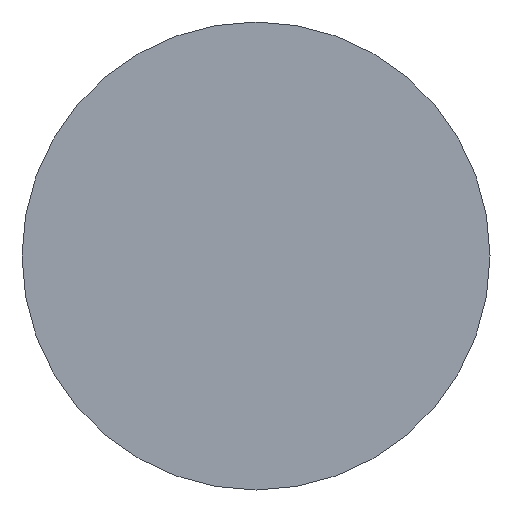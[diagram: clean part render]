
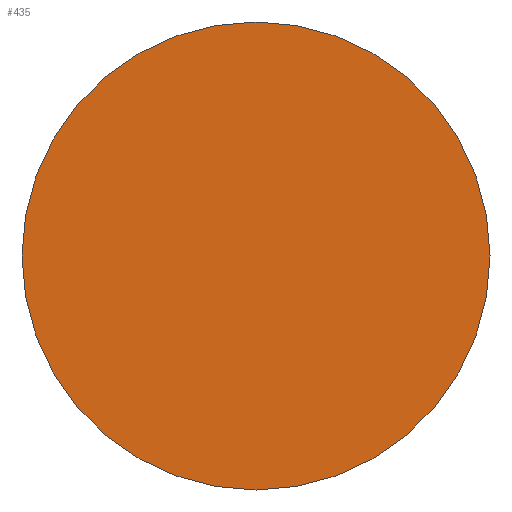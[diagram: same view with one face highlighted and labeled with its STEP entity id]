
A CAD part, front view. The second image highlights one B-rep face of the part: STEP entity #435.
In plain terms, the highlighted planar face has unit normal (0, -1, 0).
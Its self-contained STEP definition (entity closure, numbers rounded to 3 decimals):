
#435=ADVANCED_FACE('',(#830),#831,.T.);
#830=FACE_OUTER_BOUND('',#1257,.T.);
#831=PLANE('',#1258);
#1257=EDGE_LOOP('',(#2129,#2130));
#1258=AXIS2_PLACEMENT_3D('',#2131,#2132,#2133);
#2129=ORIENTED_EDGE('',*,*,#2338,.F.);
#2130=ORIENTED_EDGE('',*,*,#2424,.F.);
#2131=CARTESIAN_POINT('',(0.0,-78.0,37.5));
#2132=DIRECTION('',(0.0,-1.0,-0.0));
#2133=DIRECTION('',(-0.0,0.0,-1.0));
#2338=EDGE_CURVE('',#2746,#2749,#2750,.T.);
#2424=EDGE_CURVE('',#2749,#2746,#2893,.T.);
#2746=VERTEX_POINT('',#3307);
#2749=VERTEX_POINT('',#3311);
#2750=CIRCLE('',#3312,40.0);
#2893=CIRCLE('',#3477,40.0);
#3307=CARTESIAN_POINT('',(0.0,-78.0,40.0));
#3311=CARTESIAN_POINT('',(0.,-78.0,-40.0));
#3312=AXIS2_PLACEMENT_3D('',#3924,#3925,#3926);
#3477=AXIS2_PLACEMENT_3D('',#4087,#4088,#4089);
#3924=CARTESIAN_POINT('',(0.0,-78.0,0.0));
#3925=DIRECTION('',(0.0,1.0,0.0));
#3926=DIRECTION('',(0.0,0.0,1.0));
#4087=CARTESIAN_POINT('',(0.0,-78.0,0.0));
#4088=DIRECTION('',(0.0,1.0,0.0));
#4089=DIRECTION('',(0.0,0.0,1.0));
